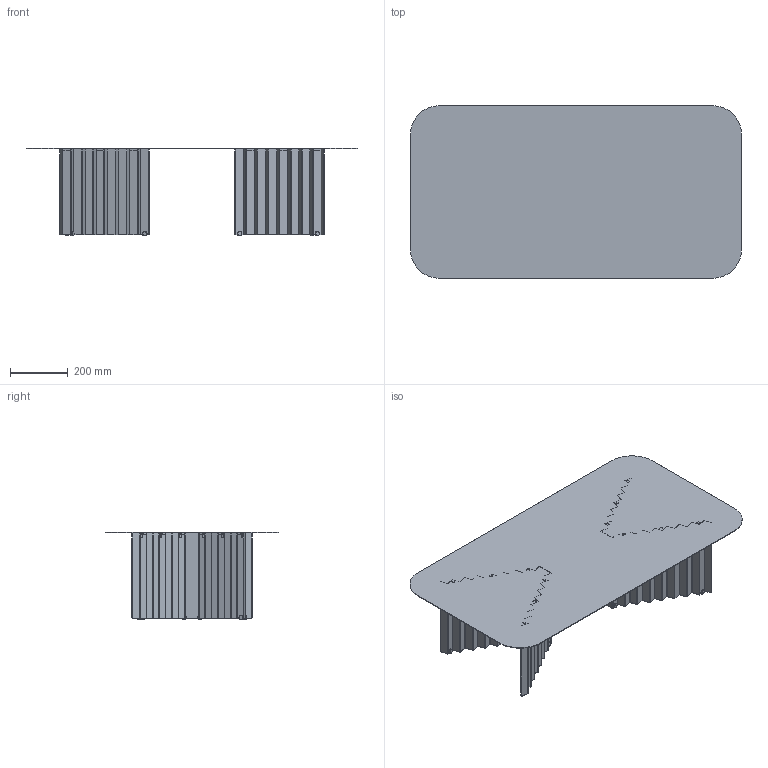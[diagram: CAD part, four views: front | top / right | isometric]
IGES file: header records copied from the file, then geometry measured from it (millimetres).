
Start section: START RECORD GO HERE.
Global section: file name: RS_Plec_Large.igs; native system: DASSAULT SYSTEMES CATIA V5 R21 - www.3ds.com; preprocessor: CATIA Version 5 Release 21 ; author: DISSENY; organization: DISSENY-PC; date: 20170510.160810; units: millimetre
Bounding box: 1150 x 600 x 304 mm (x, y, z)
Surface area: 2621799 mm2 (no closed solid volume)
Topology: 0 solids, 0 shells, 962 faces, 4032 edges, 4032 vertices
Faces by surface type: plane 606, revolution 356
